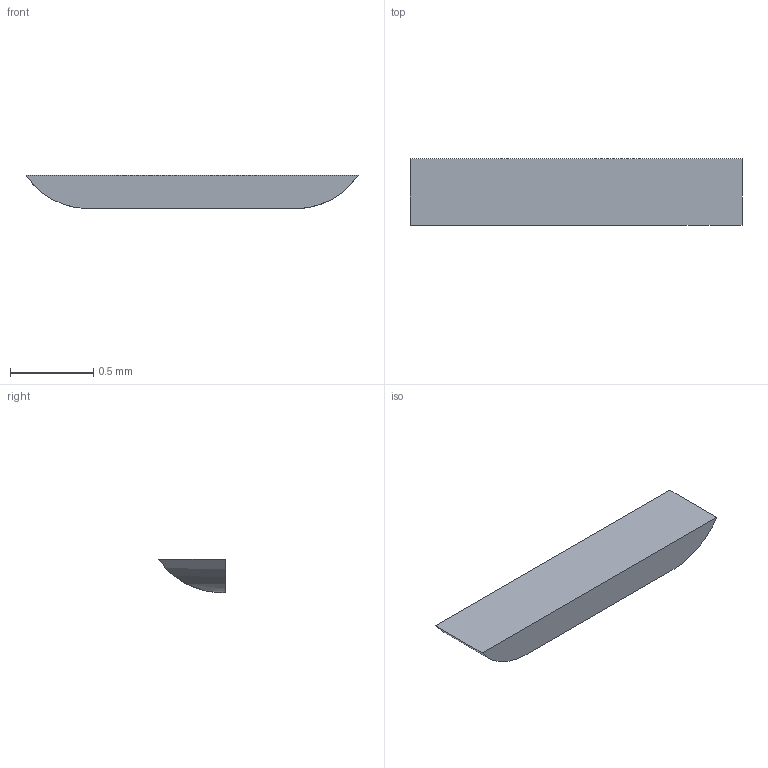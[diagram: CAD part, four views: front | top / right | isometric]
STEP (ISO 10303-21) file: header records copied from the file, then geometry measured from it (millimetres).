
FILE_DESCRIPTION(/* description */ ('STEP AP242 Edition 2','CAx-IF Rec.Pracs.---Representation and Presentation of Product Manufacturing Information (PMI)---4.0---2014-10-13','CAx-IF Rec.Pracs.---3D Tessellated Geometry---0.4---2014-09-14','2;1','CAx-IF Rec.Pracs.---User Defined Attributes---1.5---2016-08-15'),/* implementation_level */ '2;1');
FILE_NAME(/* name */ 'Drone Layout - Surface 4',/* time_stamp */ '2026-10-04T22:22:59Z',/* author */ (''),/* organization */ (''),/* preprocessor_version */ 'ST-DEVELOPER v20',/* originating_system */ 'ONSHAPE BY PTC INC, 1.221',/* authorisation */ ' ');
FILE_SCHEMA (('AP242_MANAGED_MODEL_BASED_3D_ENGINEERING_MIM_LF { 1 0 10303 442 3 1 4 }'));
Length unit declared in the file: metre
Products named in the file (1): switch:1__pad (1)
Bounding box: 2 x 0.4 x 0.2 mm (x, y, z)
Volume: 0.1 mm3; surface area: 2.1 mm2
Topology: 1 solids, 1 shells, 6 faces, 12 edges, 8 vertices
Faces by surface type: cylinder 3, plane 3
Entity records: 173 total; most frequent: CARTESIAN_POINT 33, DIRECTION 26, ORIENTED_EDGE 24, EDGE_CURVE 12, AXIS2_PLACEMENT_3D 9, LINE 8, VECTOR 8, VERTEX_POINT 8
